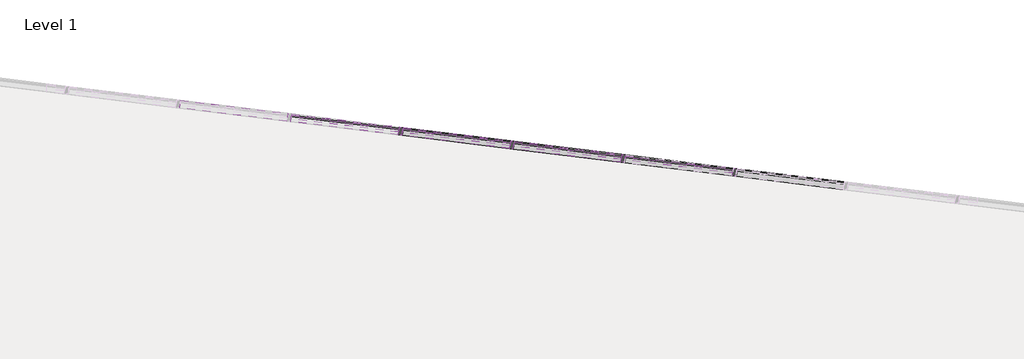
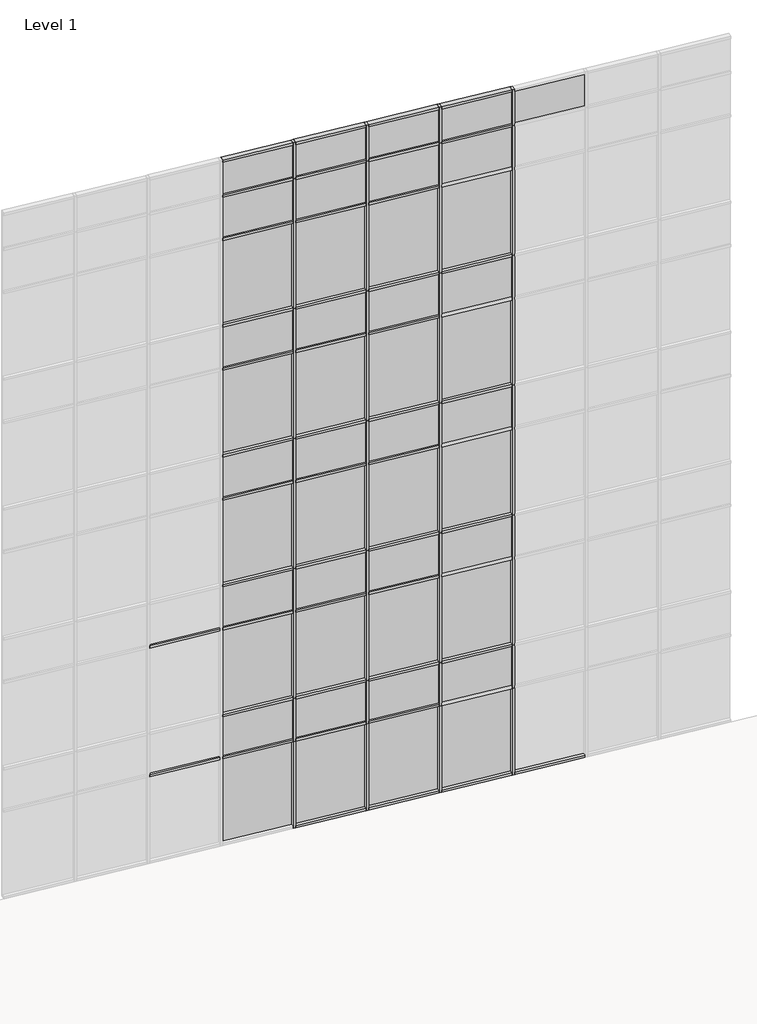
# One storey, part 17 of 23: 73 members, 45 plates.
"""IFC4 building model written with IfcOpenShell, lengths in millimetres."""

from ifc_helpers import new_model, si_unit, origin, place, context, project, spatial, transform, mapped, element, save
from components import member_2b49869a, member_f92b8aa2, member_810865a4, member_f0fea5a5, member_6d5c3e5e, member_9764dd38, system_panel_glazed_14c75400, system_panel_solid_5dfe6f83, system_panel_solid_e25e2004, system_panel_solid_b7551183

model = new_model("IFC4")

# Units and contexts
model_context = context("Model", 3, world=origin())
ifc_project = project(units=[si_unit("LENGTHUNIT", "METRE", prefix="MILLI")], contexts=[model_context])

# Site, building, storey
site = spatial("IfcSite", under=ifc_project)
building = spatial("IfcBuilding", under=site)
storey = spatial("IfcBuildingStorey", under=building, Name="Level 1", Elevation=0.0)

# Members
placement = place(None, origin())
member_shape = member_2b49869a(model_context)
element("IfcMember", 1, ObjectType="Rectangular Mullion : 2.5\" x 5\" rectangular", at=placement, inside=storey, context=model_context, shape_type="MappedRepresentation", body=[
    mapped(member_shape, transform((-12961.1731656, 13462.7931326, 2438.4), x_axis=(0.9925461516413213, -0.12186934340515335, 0.0), y_axis=(-0.12186934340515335, -0.9925461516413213, 0.0), z_axis=(0.0, 0.0, -1.0))),
])
element("IfcMember", 2, ObjectType="Rectangular Mullion : 2.5\" x 5\" rectangular", at=placement, inside=storey, context=model_context, shape_type="MappedRepresentation", body=[
    mapped(member_shape, transform((-14776.3415677, 13685.6677878, 2438.4), x_axis=(0.9925461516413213, -0.12186934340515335, 0.0), y_axis=(-0.12186934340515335, -0.9925461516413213, 0.0), z_axis=(0.0, 0.0, -1.0))),
])
element("IfcMember", 3, ObjectType="Rectangular Mullion : 2.5\" x 5\" rectangular", at=placement, inside=storey, context=model_context, shape_type="MappedRepresentation", body=[
    mapped(member_shape, transform((-16591.5099698, 13908.5424431, 2438.4), x_axis=(0.9925461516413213, -0.12186934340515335, 0.0), y_axis=(-0.12186934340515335, -0.9925461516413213, 0.0), z_axis=(0.0, 0.0, -1.0))),
])
element("IfcMember", 4, ObjectType="Rectangular Mullion : 2.5\" x 5\" rectangular", at=placement, inside=storey, context=model_context, shape_type="MappedRepresentation", body=[
    mapped(member_shape, transform((-18406.678372, 14131.4170983, 2438.4), x_axis=(0.9925461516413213, -0.12186934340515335, 0.0), y_axis=(-0.12186934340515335, -0.9925461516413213, 0.0), z_axis=(0.0, 0.0, -1.0))),
])
member_2_shape = member_f92b8aa2(model_context)
element("IfcMember", 5, ObjectType="Rectangular Mullion : 2.5\" x 5\" rectangular", at=placement, inside=storey, context=model_context, shape_type="MappedRepresentation", body=[
    mapped(member_2_shape, transform((-12961.1731656, 13462.7931326, 18288.0), x_axis=(0.9925461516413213, -0.12186934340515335, 0.0), y_axis=(-0.12186934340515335, -0.9925461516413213, 0.0), z_axis=(0.0, 0.0, -1.0))),
])
element("IfcMember", 6, ObjectType="Rectangular Mullion : 2.5\" x 5\" rectangular", at=placement, inside=storey, context=model_context, shape_type="MappedRepresentation", body=[
    mapped(member_2_shape, transform((-14776.3415677, 13685.6677878, 18288.0), x_axis=(0.9925461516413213, -0.12186934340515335, 0.0), y_axis=(-0.12186934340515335, -0.9925461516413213, 0.0), z_axis=(0.0, 0.0, -1.0))),
])
element("IfcMember", 7, ObjectType="Rectangular Mullion : 2.5\" x 5\" rectangular", at=placement, inside=storey, context=model_context, shape_type="MappedRepresentation", body=[
    mapped(member_2_shape, transform((-16591.5099698, 13908.5424431, 18288.0), x_axis=(0.9925461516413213, -0.12186934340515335, 0.0), y_axis=(-0.12186934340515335, -0.9925461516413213, 0.0), z_axis=(0.0, 0.0, -1.0))),
])
element("IfcMember", 8, ObjectType="Rectangular Mullion : 2.5\" x 5\" rectangular", at=placement, inside=storey, context=model_context, shape_type="MappedRepresentation", body=[
    mapped(member_2_shape, transform((-18406.678372, 14131.4170983, 18288.0), x_axis=(0.9925461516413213, -0.12186934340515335, 0.0), y_axis=(-0.12186934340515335, -0.9925461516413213, 0.0), z_axis=(0.0, 0.0, -1.0))),
])
member_3_shape = member_810865a4(model_context)
element("IfcMember", 9, ObjectType="Rectangular Mullion : 2.5\" x 5\" rectangular", at=placement, inside=storey, context=model_context, shape_type="MappedRepresentation", body=[
    mapped(member_3_shape, transform((-12961.1731656, 13462.7931326, 14630.4), x_axis=(0.9925461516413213, -0.12186934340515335, 0.0), y_axis=(-0.12186934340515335, -0.9925461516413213, 0.0), z_axis=(0.0, 0.0, -1.0))),
])
element("IfcMember", 10, ObjectType="Rectangular Mullion : 2.5\" x 5\" rectangular", at=placement, inside=storey, context=model_context, shape_type="MappedRepresentation", body=[
    mapped(member_3_shape, transform((-12961.1731656, 13462.7931326, 10972.8), x_axis=(0.9925461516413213, -0.12186934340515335, 0.0), y_axis=(-0.12186934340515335, -0.9925461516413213, 0.0), z_axis=(0.0, 0.0, -1.0))),
])
element("IfcMember", 11, ObjectType="Rectangular Mullion : 2.5\" x 5\" rectangular", at=placement, inside=storey, context=model_context, shape_type="MappedRepresentation", body=[
    mapped(member_3_shape, transform((-12961.1731656, 13462.7931326, 7315.2), x_axis=(0.9925461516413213, -0.12186934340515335, 0.0), y_axis=(-0.12186934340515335, -0.9925461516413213, 0.0), z_axis=(0.0, 0.0, -1.0))),
])
element("IfcMember", 12, ObjectType="Rectangular Mullion : 2.5\" x 5\" rectangular", at=placement, inside=storey, context=model_context, shape_type="MappedRepresentation", body=[
    mapped(member_3_shape, transform((-12961.1731656, 13462.7931326, 3657.6), x_axis=(0.9925461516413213, -0.12186934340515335, 0.0), y_axis=(-0.12186934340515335, -0.9925461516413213, 0.0), z_axis=(0.0, 0.0, -1.0))),
])
element("IfcMember", 13, ObjectType="Rectangular Mullion : 2.5\" x 5\" rectangular", at=placement, inside=storey, context=model_context, shape_type="MappedRepresentation", body=[
    mapped(member_3_shape, transform((-14776.3415677, 13685.6677878, 14630.4), x_axis=(0.9925461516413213, -0.12186934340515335, 0.0), y_axis=(-0.12186934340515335, -0.9925461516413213, 0.0), z_axis=(0.0, 0.0, -1.0))),
])
element("IfcMember", 14, ObjectType="Rectangular Mullion : 2.5\" x 5\" rectangular", at=placement, inside=storey, context=model_context, shape_type="MappedRepresentation", body=[
    mapped(member_3_shape, transform((-14776.3415677, 13685.6677878, 10972.8), x_axis=(0.9925461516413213, -0.12186934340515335, 0.0), y_axis=(-0.12186934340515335, -0.9925461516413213, 0.0), z_axis=(0.0, 0.0, -1.0))),
])
element("IfcMember", 15, ObjectType="Rectangular Mullion : 2.5\" x 5\" rectangular", at=placement, inside=storey, context=model_context, shape_type="MappedRepresentation", body=[
    mapped(member_3_shape, transform((-14776.3415677, 13685.6677878, 7315.2), x_axis=(0.9925461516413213, -0.12186934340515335, 0.0), y_axis=(-0.12186934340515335, -0.9925461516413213, 0.0), z_axis=(0.0, 0.0, -1.0))),
])
element("IfcMember", 16, ObjectType="Rectangular Mullion : 2.5\" x 5\" rectangular", at=placement, inside=storey, context=model_context, shape_type="MappedRepresentation", body=[
    mapped(member_3_shape, transform((-14776.3415677, 13685.6677878, 3657.6), x_axis=(0.9925461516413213, -0.12186934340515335, 0.0), y_axis=(-0.12186934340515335, -0.9925461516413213, 0.0), z_axis=(0.0, 0.0, -1.0))),
])
element("IfcMember", 17, ObjectType="Rectangular Mullion : 2.5\" x 5\" rectangular", at=placement, inside=storey, context=model_context, shape_type="MappedRepresentation", body=[
    mapped(member_3_shape, transform((-16591.5099698, 13908.5424431, 14630.4), x_axis=(0.9925461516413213, -0.12186934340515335, 0.0), y_axis=(-0.12186934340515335, -0.9925461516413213, 0.0), z_axis=(0.0, 0.0, -1.0))),
])
element("IfcMember", 18, ObjectType="Rectangular Mullion : 2.5\" x 5\" rectangular", at=placement, inside=storey, context=model_context, shape_type="MappedRepresentation", body=[
    mapped(member_3_shape, transform((-16591.5099698, 13908.5424431, 10972.8), x_axis=(0.9925461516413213, -0.12186934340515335, 0.0), y_axis=(-0.12186934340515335, -0.9925461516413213, 0.0), z_axis=(0.0, 0.0, -1.0))),
])
element("IfcMember", 19, ObjectType="Rectangular Mullion : 2.5\" x 5\" rectangular", at=placement, inside=storey, context=model_context, shape_type="MappedRepresentation", body=[
    mapped(member_3_shape, transform((-16591.5099698, 13908.5424431, 7315.2), x_axis=(0.9925461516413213, -0.12186934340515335, 0.0), y_axis=(-0.12186934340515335, -0.9925461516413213, 0.0), z_axis=(0.0, 0.0, -1.0))),
])
element("IfcMember", 20, ObjectType="Rectangular Mullion : 2.5\" x 5\" rectangular", at=placement, inside=storey, context=model_context, shape_type="MappedRepresentation", body=[
    mapped(member_3_shape, transform((-16591.5099698, 13908.5424431, 3657.6), x_axis=(0.9925461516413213, -0.12186934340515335, 0.0), y_axis=(-0.12186934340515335, -0.9925461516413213, 0.0), z_axis=(0.0, 0.0, -1.0))),
])
element("IfcMember", 21, ObjectType="Rectangular Mullion : 2.5\" x 5\" rectangular", at=placement, inside=storey, context=model_context, shape_type="MappedRepresentation", body=[
    mapped(member_3_shape, transform((-18406.678372, 14131.4170983, 14630.4), x_axis=(0.9925461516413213, -0.12186934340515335, 0.0), y_axis=(-0.12186934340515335, -0.9925461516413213, 0.0), z_axis=(0.0, 0.0, -1.0))),
])
element("IfcMember", 22, ObjectType="Rectangular Mullion : 2.5\" x 5\" rectangular", at=placement, inside=storey, context=model_context, shape_type="MappedRepresentation", body=[
    mapped(member_3_shape, transform((-18406.678372, 14131.4170983, 10972.8), x_axis=(0.9925461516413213, -0.12186934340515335, 0.0), y_axis=(-0.12186934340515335, -0.9925461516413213, 0.0), z_axis=(0.0, 0.0, -1.0))),
])
element("IfcMember", 23, ObjectType="Rectangular Mullion : 2.5\" x 5\" rectangular", at=placement, inside=storey, context=model_context, shape_type="MappedRepresentation", body=[
    mapped(member_3_shape, transform((-18406.678372, 14131.4170983, 7315.2), x_axis=(0.9925461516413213, -0.12186934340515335, 0.0), y_axis=(-0.12186934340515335, -0.9925461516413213, 0.0), z_axis=(0.0, 0.0, -1.0))),
])
element("IfcMember", 24, ObjectType="Rectangular Mullion : 2.5\" x 5\" rectangular", at=placement, inside=storey, context=model_context, shape_type="MappedRepresentation", body=[
    mapped(member_3_shape, transform((-18406.678372, 14131.4170983, 3657.6), x_axis=(0.9925461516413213, -0.12186934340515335, 0.0), y_axis=(-0.12186934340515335, -0.9925461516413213, 0.0), z_axis=(0.0, 0.0, -1.0))),
])
member_4_shape = member_f0fea5a5(model_context)
element("IfcMember", 25, ObjectType="Rectangular Mullion : 2.5\" x 5\" rectangular", at=placement, inside=storey, context=model_context, shape_type="MappedRepresentation", body=[
    mapped(member_4_shape, transform((-18406.678372, 14131.4170983, 0.0), x_axis=(0.9925461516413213, -0.12186934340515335, 0.0), y_axis=(-0.12186934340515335, -0.9925461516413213, 0.0), z_axis=(0.0, 0.0, -1.0))),
])
element("IfcMember", 26, ObjectType="Rectangular Mullion : 2.5\" x 5\" rectangular", at=placement, inside=storey, context=model_context, shape_type="MappedRepresentation", body=[
    mapped(member_4_shape, transform((-16591.5099698, 13908.5424431, 0.0), x_axis=(0.9925461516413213, -0.12186934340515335, 0.0), y_axis=(-0.12186934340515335, -0.9925461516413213, 0.0), z_axis=(0.0, 0.0, -1.0))),
])
element("IfcMember", 27, ObjectType="Rectangular Mullion : 2.5\" x 5\" rectangular", at=placement, inside=storey, context=model_context, shape_type="MappedRepresentation", body=[
    mapped(member_4_shape, transform((-14776.3415677, 13685.6677878, 0.0), x_axis=(0.9925461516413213, -0.12186934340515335, 0.0), y_axis=(-0.12186934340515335, -0.9925461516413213, 0.0), z_axis=(0.0, 0.0, -1.0))),
])
element("IfcMember", 28, ObjectType="Rectangular Mullion : 2.5\" x 5\" rectangular", at=placement, inside=storey, context=model_context, shape_type="MappedRepresentation", body=[
    mapped(member_4_shape, transform((-12961.1731656, 13462.7931326, 0.0), x_axis=(0.9925461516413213, -0.12186934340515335, 0.0), y_axis=(-0.12186934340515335, -0.9925461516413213, 0.0), z_axis=(0.0, 0.0, -1.0))),
])
member_5_shape = member_6d5c3e5e(model_context)
element("IfcMember", 29, ObjectType="Rectangular Mullion : 2.5\" x 5\" rectangular", at=placement, inside=storey, context=model_context, shape_type="MappedRepresentation", body=[
    mapped(member_5_shape, transform((-12992.6865059, 13466.6624843, 19304.0), x_axis=(0.0, 0.0, 1.0), y_axis=(-0.12186934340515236, -0.9925461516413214, 0.0), z_axis=(0.9925461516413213, -0.12186934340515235, 0.0))),
])
element("IfcMember", 30, ObjectType="Rectangular Mullion : 2.5\" x 5\" rectangular", at=placement, inside=storey, context=model_context, shape_type="MappedRepresentation", body=[
    mapped(member_5_shape, transform((-14807.854908, 13689.5371395, 19304.0), x_axis=(0.0, 0.0, 1.0), y_axis=(-0.12186934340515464, -0.9925461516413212, 0.0), z_axis=(0.9925461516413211, -0.12186934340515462, 0.0))),
])
element("IfcMember", 31, ObjectType="Rectangular Mullion : 2.5\" x 5\" rectangular", at=placement, inside=storey, context=model_context, shape_type="MappedRepresentation", body=[
    mapped(member_5_shape, transform((-16623.0233102, 13912.4117947, 19304.0), x_axis=(0.0, 0.0, 1.0), y_axis=(-0.12186934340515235, -0.9925461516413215, 0.0), z_axis=(0.9925461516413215, -0.12186934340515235, 0.0))),
])
element("IfcMember", 32, ObjectType="Rectangular Mullion : 2.5\" x 5\" rectangular", at=placement, inside=storey, context=model_context, shape_type="MappedRepresentation", body=[
    mapped(member_5_shape, transform((-18438.1917123, 14135.2864499, 19304.0), x_axis=(0.0, 0.0, 1.0), y_axis=(-0.12186934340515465, -0.9925461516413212, 0.0), z_axis=(0.9925461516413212, -0.12186934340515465, 0.0))),
])
member_6_shape = member_9764dd38(model_context)
element("IfcMember", 33, ObjectType="Rectangular Mullion : 2.5\" x 5\" rectangular", at=placement, inside=storey, context=model_context, shape_type="MappedRepresentation", body=[
    mapped(member_6_shape, transform((-14807.854908, 13689.5371395, 17068.8), x_axis=(0.0, 0.0, 1.0), y_axis=(-0.12186934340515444, -0.9925461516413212, 0.0), z_axis=(0.9925461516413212, -0.12186934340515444, 0.0))),
])
element("IfcMember", 34, ObjectType="Rectangular Mullion : 2.5\" x 5\" rectangular", at=placement, inside=storey, context=model_context, shape_type="MappedRepresentation", body=[
    mapped(member_6_shape, transform((-16623.0233102, 13912.4117947, 17068.8), x_axis=(0.0, 0.0, 1.0), y_axis=(-0.12186934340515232, -0.9925461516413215, 0.0), z_axis=(0.9925461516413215, -0.12186934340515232, 0.0))),
])
element("IfcMember", 35, ObjectType="Rectangular Mullion : 2.5\" x 5\" rectangular", at=placement, inside=storey, context=model_context, shape_type="MappedRepresentation", body=[
    mapped(member_6_shape, transform((-18438.1917123, 14135.2864499, 17068.8), x_axis=(0.0, 0.0, 1.0), y_axis=(-0.12186934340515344, -0.9925461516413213, 0.0), z_axis=(0.9925461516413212, -0.12186934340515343, 0.0))),
])
element("IfcMember", 36, ObjectType="Rectangular Mullion : 2.5\" x 5\" rectangular", at=placement, inside=storey, context=model_context, shape_type="MappedRepresentation", body=[
    mapped(member_6_shape, transform((-14807.854908, 13689.5371395, 13411.2), x_axis=(0.0, 0.0, 1.0), y_axis=(-0.12186934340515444, -0.9925461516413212, 0.0), z_axis=(0.9925461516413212, -0.12186934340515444, 0.0))),
])
element("IfcMember", 37, ObjectType="Rectangular Mullion : 2.5\" x 5\" rectangular", at=placement, inside=storey, context=model_context, shape_type="MappedRepresentation", body=[
    mapped(member_6_shape, transform((-16623.0233102, 13912.4117947, 13411.2), x_axis=(0.0, 0.0, 1.0), y_axis=(-0.12186934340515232, -0.9925461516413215, 0.0), z_axis=(0.9925461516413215, -0.12186934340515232, 0.0))),
])
element("IfcMember", 38, ObjectType="Rectangular Mullion : 2.5\" x 5\" rectangular", at=placement, inside=storey, context=model_context, shape_type="MappedRepresentation", body=[
    mapped(member_6_shape, transform((-18438.1917123, 14135.2864499, 13411.2), x_axis=(0.0, 0.0, 1.0), y_axis=(-0.12186934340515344, -0.9925461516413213, 0.0), z_axis=(0.9925461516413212, -0.12186934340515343, 0.0))),
])
element("IfcMember", 39, ObjectType="Rectangular Mullion : 2.5\" x 5\" rectangular", at=placement, inside=storey, context=model_context, shape_type="MappedRepresentation", body=[
    mapped(member_6_shape, transform((-14807.854908, 13689.5371395, 9753.6), x_axis=(0.0, 0.0, 1.0), y_axis=(-0.12186934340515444, -0.9925461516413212, 0.0), z_axis=(0.9925461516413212, -0.12186934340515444, 0.0))),
])
element("IfcMember", 40, ObjectType="Rectangular Mullion : 2.5\" x 5\" rectangular", at=placement, inside=storey, context=model_context, shape_type="MappedRepresentation", body=[
    mapped(member_6_shape, transform((-16623.0233102, 13912.4117947, 9753.6), x_axis=(0.0, 0.0, 1.0), y_axis=(-0.12186934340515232, -0.9925461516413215, 0.0), z_axis=(0.9925461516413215, -0.12186934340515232, 0.0))),
])
element("IfcMember", 41, ObjectType="Rectangular Mullion : 2.5\" x 5\" rectangular", at=placement, inside=storey, context=model_context, shape_type="MappedRepresentation", body=[
    mapped(member_6_shape, transform((-18438.1917123, 14135.2864499, 9753.6), x_axis=(0.0, 0.0, 1.0), y_axis=(-0.12186934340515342, -0.9925461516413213, 0.0), z_axis=(0.9925461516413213, -0.12186934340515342, 0.0))),
])
element("IfcMember", 42, ObjectType="Rectangular Mullion : 2.5\" x 5\" rectangular", at=placement, inside=storey, context=model_context, shape_type="MappedRepresentation", body=[
    mapped(member_6_shape, transform((-14807.854908, 13689.5371395, 6096.0), x_axis=(0.0, 0.0, 1.0), y_axis=(-0.12186934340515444, -0.9925461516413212, 0.0), z_axis=(0.9925461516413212, -0.12186934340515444, 0.0))),
])
element("IfcMember", 43, ObjectType="Rectangular Mullion : 2.5\" x 5\" rectangular", at=placement, inside=storey, context=model_context, shape_type="MappedRepresentation", body=[
    mapped(member_6_shape, transform((-16623.0233102, 13912.4117947, 6096.0), x_axis=(0.0, 0.0, 1.0), y_axis=(-0.12186934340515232, -0.9925461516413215, 0.0), z_axis=(0.9925461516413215, -0.12186934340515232, 0.0))),
])
element("IfcMember", 44, ObjectType="Rectangular Mullion : 2.5\" x 5\" rectangular", at=placement, inside=storey, context=model_context, shape_type="MappedRepresentation", body=[
    mapped(member_6_shape, transform((-18438.1917123, 14135.2864499, 6096.0), x_axis=(0.0, 0.0, 1.0), y_axis=(-0.12186934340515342, -0.9925461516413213, 0.0), z_axis=(0.9925461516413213, -0.12186934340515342, 0.0))),
])
element("IfcMember", 45, ObjectType="Rectangular Mullion : 2.5\" x 5\" rectangular", at=placement, inside=storey, context=model_context, shape_type="MappedRepresentation", body=[
    mapped(member_6_shape, transform((-20253.3601144, 14358.1611052, 6096.0), x_axis=(0.0, 0.0, 1.0), y_axis=(-0.12186934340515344, -0.9925461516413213, 0.0), z_axis=(0.9925461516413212, -0.12186934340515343, 0.0))),
])
element("IfcMember", 46, ObjectType="Rectangular Mullion : 2.5\" x 5\" rectangular", at=placement, inside=storey, context=model_context, shape_type="MappedRepresentation", body=[
    mapped(member_6_shape, transform((-14807.854908, 13689.5371395, 2470.15), x_axis=(0.0, 0.0, 1.0), y_axis=(-0.12186934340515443, -0.9925461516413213, 0.0), z_axis=(0.9925461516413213, -0.12186934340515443, 0.0))),
])
element("IfcMember", 47, ObjectType="Rectangular Mullion : 2.5\" x 5\" rectangular", at=placement, inside=storey, context=model_context, shape_type="MappedRepresentation", body=[
    mapped(member_6_shape, transform((-16623.0233102, 13912.4117947, 2470.15), x_axis=(0.0, 0.0, 1.0), y_axis=(-0.12186934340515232, -0.9925461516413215, 0.0), z_axis=(0.9925461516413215, -0.12186934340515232, 0.0))),
])
element("IfcMember", 48, ObjectType="Rectangular Mullion : 2.5\" x 5\" rectangular", at=placement, inside=storey, context=model_context, shape_type="MappedRepresentation", body=[
    mapped(member_6_shape, transform((-18438.1917123, 14135.2864499, 2470.15), x_axis=(0.0, 0.0, 1.0), y_axis=(-0.1218693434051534, -0.9925461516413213, 0.0), z_axis=(0.9925461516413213, -0.1218693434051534, 0.0))),
])
element("IfcMember", 49, ObjectType="Rectangular Mullion : 2.5\" x 5\" rectangular", at=placement, inside=storey, context=model_context, shape_type="MappedRepresentation", body=[
    mapped(member_6_shape, transform((-20253.3601144, 14358.1611052, 2470.15), x_axis=(0.0, 0.0, 1.0), y_axis=(-0.12186934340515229, -0.9925461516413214, 0.0), z_axis=(0.9925461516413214, -0.12186934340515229, 0.0))),
])
element("IfcMember", 50, ObjectType="Rectangular Mullion : 2.5\" x 5\" rectangular", at=placement, inside=storey, context=model_context, shape_type="MappedRepresentation", body=[
    mapped(member_5_shape, transform((-12929.6598253, 13458.923781, 0.0), x_axis=(0.0, 0.0, -1.0), y_axis=(-0.12186934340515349, -0.9925461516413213, 0.0), z_axis=(-0.9925461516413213, 0.12186934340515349, 0.0))),
])
element("IfcMember", 51, ObjectType="Rectangular Mullion : 2.5\" x 5\" rectangular", at=placement, inside=storey, context=model_context, shape_type="MappedRepresentation", body=[
    mapped(member_5_shape, transform((-14744.8282274, 13681.7984362, 0.0), x_axis=(0.0, 0.0, -1.0), y_axis=(-0.12186934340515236, -0.9925461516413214, 0.0), z_axis=(-0.9925461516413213, 0.12186934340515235, 0.0))),
])
element("IfcMember", 52, ObjectType="Rectangular Mullion : 2.5\" x 5\" rectangular", at=placement, inside=storey, context=model_context, shape_type="MappedRepresentation", body=[
    mapped(member_5_shape, transform((-16559.9966295, 13904.6730914, 0.0), x_axis=(0.0, 0.0, -1.0), y_axis=(-0.12186934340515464, -0.9925461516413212, 0.0), z_axis=(-0.9925461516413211, 0.12186934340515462, 0.0))),
])
element("IfcMember", 53, ObjectType="Rectangular Mullion : 2.5\" x 5\" rectangular", at=placement, inside=storey, context=model_context, shape_type="MappedRepresentation", body=[
    mapped(member_5_shape, transform((-18375.1650316, 14127.5477466, 0.0), x_axis=(0.0, 0.0, -1.0), y_axis=(-0.12186934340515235, -0.9925461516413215, 0.0), z_axis=(-0.9925461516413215, 0.12186934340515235, 0.0))),
])
element("IfcMember", 54, ObjectType="Rectangular Mullion : 2.5\" x 5\" rectangular", at=placement, inside=storey, context=model_context, shape_type="MappedRepresentation", body=[
    mapped(member_6_shape, transform((-12992.6865059, 13466.6624843, 3657.6), x_axis=(0.0, 0.0, 1.0), y_axis=(-0.12186934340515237, -0.9925461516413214, 0.0), z_axis=(0.9925461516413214, -0.12186934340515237, 0.0))),
])
element("IfcMember", 55, ObjectType="Rectangular Mullion : 2.5\" x 5\" rectangular", at=placement, inside=storey, context=model_context, shape_type="MappedRepresentation", body=[
    mapped(member_6_shape, transform((-14807.854908, 13689.5371395, 3657.6), x_axis=(0.0, 0.0, 1.0), y_axis=(-0.12186934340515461, -0.9925461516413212, 0.0), z_axis=(0.9925461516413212, -0.12186934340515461, 0.0))),
])
element("IfcMember", 56, ObjectType="Rectangular Mullion : 2.5\" x 5\" rectangular", at=placement, inside=storey, context=model_context, shape_type="MappedRepresentation", body=[
    mapped(member_6_shape, transform((-16623.0233102, 13912.4117947, 3657.6), x_axis=(0.0, 0.0, 1.0), y_axis=(-0.12186934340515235, -0.9925461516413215, 0.0), z_axis=(0.9925461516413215, -0.12186934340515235, 0.0))),
])
element("IfcMember", 57, ObjectType="Rectangular Mullion : 2.5\" x 5\" rectangular", at=placement, inside=storey, context=model_context, shape_type="MappedRepresentation", body=[
    mapped(member_6_shape, transform((-18438.1917123, 14135.2864499, 3657.6), x_axis=(0.0, 0.0, 1.0), y_axis=(-0.12186934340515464, -0.9925461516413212, 0.0), z_axis=(0.9925461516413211, -0.12186934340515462, 0.0))),
])
element("IfcMember", 58, ObjectType="Rectangular Mullion : 2.5\" x 5\" rectangular", at=placement, inside=storey, context=model_context, shape_type="MappedRepresentation", body=[
    mapped(member_6_shape, transform((-12992.6865059, 13466.6624843, 10972.8), x_axis=(0.0, 0.0, 1.0), y_axis=(-0.12186934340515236, -0.9925461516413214, 0.0), z_axis=(0.9925461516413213, -0.12186934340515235, 0.0))),
])
element("IfcMember", 59, ObjectType="Rectangular Mullion : 2.5\" x 5\" rectangular", at=placement, inside=storey, context=model_context, shape_type="MappedRepresentation", body=[
    mapped(member_6_shape, transform((-14807.854908, 13689.5371395, 10972.8), x_axis=(0.0, 0.0, 1.0), y_axis=(-0.12186934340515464, -0.9925461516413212, 0.0), z_axis=(0.9925461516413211, -0.12186934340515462, 0.0))),
])
element("IfcMember", 60, ObjectType="Rectangular Mullion : 2.5\" x 5\" rectangular", at=placement, inside=storey, context=model_context, shape_type="MappedRepresentation", body=[
    mapped(member_6_shape, transform((-16623.0233102, 13912.4117947, 10972.8), x_axis=(0.0, 0.0, 1.0), y_axis=(-0.12186934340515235, -0.9925461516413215, 0.0), z_axis=(0.9925461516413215, -0.12186934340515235, 0.0))),
])
element("IfcMember", 61, ObjectType="Rectangular Mullion : 2.5\" x 5\" rectangular", at=placement, inside=storey, context=model_context, shape_type="MappedRepresentation", body=[
    mapped(member_6_shape, transform((-18438.1917123, 14135.2864499, 10972.8), x_axis=(0.0, 0.0, 1.0), y_axis=(-0.12186934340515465, -0.9925461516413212, 0.0), z_axis=(0.9925461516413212, -0.12186934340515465, 0.0))),
])
element("IfcMember", 62, ObjectType="Rectangular Mullion : 2.5\" x 5\" rectangular", at=placement, inside=storey, context=model_context, shape_type="MappedRepresentation", body=[
    mapped(member_6_shape, transform((-12992.6865059, 13466.6624843, 14630.4), x_axis=(0.0, 0.0, 1.0), y_axis=(-0.12186934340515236, -0.9925461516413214, 0.0), z_axis=(0.9925461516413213, -0.12186934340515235, 0.0))),
])
element("IfcMember", 63, ObjectType="Rectangular Mullion : 2.5\" x 5\" rectangular", at=placement, inside=storey, context=model_context, shape_type="MappedRepresentation", body=[
    mapped(member_6_shape, transform((-14807.854908, 13689.5371395, 14630.4), x_axis=(0.0, 0.0, 1.0), y_axis=(-0.12186934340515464, -0.9925461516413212, 0.0), z_axis=(0.9925461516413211, -0.12186934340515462, 0.0))),
])
element("IfcMember", 64, ObjectType="Rectangular Mullion : 2.5\" x 5\" rectangular", at=placement, inside=storey, context=model_context, shape_type="MappedRepresentation", body=[
    mapped(member_6_shape, transform((-16623.0233102, 13912.4117947, 14630.4), x_axis=(0.0, 0.0, 1.0), y_axis=(-0.12186934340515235, -0.9925461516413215, 0.0), z_axis=(0.9925461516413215, -0.12186934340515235, 0.0))),
])
element("IfcMember", 65, ObjectType="Rectangular Mullion : 2.5\" x 5\" rectangular", at=placement, inside=storey, context=model_context, shape_type="MappedRepresentation", body=[
    mapped(member_6_shape, transform((-18438.1917123, 14135.2864499, 14630.4), x_axis=(0.0, 0.0, 1.0), y_axis=(-0.12186934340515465, -0.9925461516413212, 0.0), z_axis=(0.9925461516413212, -0.12186934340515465, 0.0))),
])
element("IfcMember", 66, ObjectType="Rectangular Mullion : 2.5\" x 5\" rectangular", at=placement, inside=storey, context=model_context, shape_type="MappedRepresentation", body=[
    mapped(member_6_shape, transform((-12992.6865059, 13466.6624843, 7315.2), x_axis=(0.0, 0.0, 1.0), y_axis=(-0.12186934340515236, -0.9925461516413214, 0.0), z_axis=(0.9925461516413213, -0.12186934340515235, 0.0))),
])
element("IfcMember", 67, ObjectType="Rectangular Mullion : 2.5\" x 5\" rectangular", at=placement, inside=storey, context=model_context, shape_type="MappedRepresentation", body=[
    mapped(member_6_shape, transform((-14807.854908, 13689.5371395, 7315.2), x_axis=(0.0, 0.0, 1.0), y_axis=(-0.12186934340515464, -0.9925461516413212, 0.0), z_axis=(0.9925461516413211, -0.12186934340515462, 0.0))),
])
element("IfcMember", 68, ObjectType="Rectangular Mullion : 2.5\" x 5\" rectangular", at=placement, inside=storey, context=model_context, shape_type="MappedRepresentation", body=[
    mapped(member_6_shape, transform((-16623.0233102, 13912.4117947, 7315.2), x_axis=(0.0, 0.0, 1.0), y_axis=(-0.12186934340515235, -0.9925461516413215, 0.0), z_axis=(0.9925461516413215, -0.12186934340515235, 0.0))),
])
element("IfcMember", 69, ObjectType="Rectangular Mullion : 2.5\" x 5\" rectangular", at=placement, inside=storey, context=model_context, shape_type="MappedRepresentation", body=[
    mapped(member_6_shape, transform((-18438.1917123, 14135.2864499, 7315.2), x_axis=(0.0, 0.0, 1.0), y_axis=(-0.12186934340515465, -0.9925461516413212, 0.0), z_axis=(0.9925461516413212, -0.12186934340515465, 0.0))),
])
element("IfcMember", 70, ObjectType="Rectangular Mullion : 2.5\" x 5\" rectangular", at=placement, inside=storey, context=model_context, shape_type="MappedRepresentation", body=[
    mapped(member_6_shape, transform((-12992.6865059, 13466.6624843, 18288.0), x_axis=(0.0, 0.0, 1.0), y_axis=(-0.12186934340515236, -0.9925461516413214, 0.0), z_axis=(0.9925461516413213, -0.12186934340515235, 0.0))),
])
element("IfcMember", 71, ObjectType="Rectangular Mullion : 2.5\" x 5\" rectangular", at=placement, inside=storey, context=model_context, shape_type="MappedRepresentation", body=[
    mapped(member_6_shape, transform((-14807.854908, 13689.5371395, 18288.0), x_axis=(0.0, 0.0, 1.0), y_axis=(-0.12186934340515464, -0.9925461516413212, 0.0), z_axis=(0.9925461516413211, -0.12186934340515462, 0.0))),
])
element("IfcMember", 72, ObjectType="Rectangular Mullion : 2.5\" x 5\" rectangular", at=placement, inside=storey, context=model_context, shape_type="MappedRepresentation", body=[
    mapped(member_6_shape, transform((-16623.0233102, 13912.4117947, 18288.0), x_axis=(0.0, 0.0, 1.0), y_axis=(-0.12186934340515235, -0.9925461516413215, 0.0), z_axis=(0.9925461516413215, -0.12186934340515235, 0.0))),
])
element("IfcMember", 73, ObjectType="Rectangular Mullion : 2.5\" x 5\" rectangular", at=placement, inside=storey, context=model_context, shape_type="MappedRepresentation", body=[
    mapped(member_6_shape, transform((-18438.1917123, 14135.2864499, 18288.0), x_axis=(0.0, 0.0, 1.0), y_axis=(-0.12186934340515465, -0.9925461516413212, 0.0), z_axis=(0.9925461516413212, -0.12186934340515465, 0.0))),
])

# Plates
system_panel_glazed_shape = system_panel_glazed_14c75400(model_context)
element("IfcPlate", 74, ObjectType="System Panel : Glazed", at=placement, inside=storey, context=model_context, shape_type="MappedRepresentation", body=[
    mapped(system_panel_glazed_shape, transform((-13868.7573667, 13574.2304602, 14662.15), x_axis=(0.9925461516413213, -0.12186934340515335, 0.0), y_axis=(0.12186934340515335, 0.9925461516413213, 0.0), z_axis=(0.0, 0.0, 1.0))),
])
element("IfcPlate", 75, ObjectType="System Panel : Glazed", at=placement, inside=storey, context=model_context, shape_type="MappedRepresentation", body=[
    mapped(system_panel_glazed_shape, transform((-15683.9257688, 13797.1051154, 14662.15), x_axis=(0.9925461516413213, -0.12186934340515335, 0.0), y_axis=(0.12186934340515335, 0.9925461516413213, 0.0), z_axis=(0.0, 0.0, 1.0))),
])
element("IfcPlate", 76, ObjectType="System Panel : Glazed", at=placement, inside=storey, context=model_context, shape_type="MappedRepresentation", body=[
    mapped(system_panel_glazed_shape, transform((-17499.0941709, 14019.9797707, 14662.15), x_axis=(0.9925461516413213, -0.12186934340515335, 0.0), y_axis=(0.12186934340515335, 0.9925461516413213, 0.0), z_axis=(0.0, 0.0, 1.0))),
])
element("IfcPlate", 77, ObjectType="System Panel : Glazed", at=placement, inside=storey, context=model_context, shape_type="MappedRepresentation", body=[
    mapped(system_panel_glazed_shape, transform((-19314.262573, 14242.8544259, 14662.15), x_axis=(0.9925461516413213, -0.12186934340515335, 0.0), y_axis=(0.12186934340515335, 0.9925461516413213, 0.0), z_axis=(0.0, 0.0, 1.0))),
])
element("IfcPlate", 78, ObjectType="System Panel : Glazed", at=placement, inside=storey, context=model_context, shape_type="MappedRepresentation", body=[
    mapped(system_panel_glazed_shape, transform((-13868.7573667, 13574.2304602, 11004.55), x_axis=(0.9925461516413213, -0.12186934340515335, 0.0), y_axis=(0.12186934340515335, 0.9925461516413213, 0.0), z_axis=(0.0, 0.0, 1.0))),
])
element("IfcPlate", 79, ObjectType="System Panel : Glazed", at=placement, inside=storey, context=model_context, shape_type="MappedRepresentation", body=[
    mapped(system_panel_glazed_shape, transform((-15683.9257688, 13797.1051154, 11004.55), x_axis=(0.9925461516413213, -0.12186934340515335, 0.0), y_axis=(0.12186934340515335, 0.9925461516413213, 0.0), z_axis=(0.0, 0.0, 1.0))),
])
element("IfcPlate", 80, ObjectType="System Panel : Glazed", at=placement, inside=storey, context=model_context, shape_type="MappedRepresentation", body=[
    mapped(system_panel_glazed_shape, transform((-17499.0941709, 14019.9797707, 11004.55), x_axis=(0.9925461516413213, -0.12186934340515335, 0.0), y_axis=(0.12186934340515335, 0.9925461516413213, 0.0), z_axis=(0.0, 0.0, 1.0))),
])
element("IfcPlate", 81, ObjectType="System Panel : Glazed", at=placement, inside=storey, context=model_context, shape_type="MappedRepresentation", body=[
    mapped(system_panel_glazed_shape, transform((-19314.262573, 14242.8544259, 11004.55), x_axis=(0.9925461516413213, -0.12186934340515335, 0.0), y_axis=(0.12186934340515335, 0.9925461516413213, 0.0), z_axis=(0.0, 0.0, 1.0))),
])
element("IfcPlate", 82, ObjectType="System Panel : Glazed", at=placement, inside=storey, context=model_context, shape_type="MappedRepresentation", body=[
    mapped(system_panel_glazed_shape, transform((-13868.7573667, 13574.2304602, 7346.95), x_axis=(0.9925461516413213, -0.12186934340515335, 0.0), y_axis=(0.12186934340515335, 0.9925461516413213, 0.0), z_axis=(0.0, 0.0, 1.0))),
])
element("IfcPlate", 83, ObjectType="System Panel : Glazed", at=placement, inside=storey, context=model_context, shape_type="MappedRepresentation", body=[
    mapped(system_panel_glazed_shape, transform((-15683.9257688, 13797.1051154, 7346.95), x_axis=(0.9925461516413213, -0.12186934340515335, 0.0), y_axis=(0.12186934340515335, 0.9925461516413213, 0.0), z_axis=(0.0, 0.0, 1.0))),
])
element("IfcPlate", 84, ObjectType="System Panel : Glazed", at=placement, inside=storey, context=model_context, shape_type="MappedRepresentation", body=[
    mapped(system_panel_glazed_shape, transform((-17499.0941709, 14019.9797707, 7346.95), x_axis=(0.9925461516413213, -0.12186934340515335, 0.0), y_axis=(0.12186934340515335, 0.9925461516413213, 0.0), z_axis=(0.0, 0.0, 1.0))),
])
element("IfcPlate", 85, ObjectType="System Panel : Glazed", at=placement, inside=storey, context=model_context, shape_type="MappedRepresentation", body=[
    mapped(system_panel_glazed_shape, transform((-19314.262573, 14242.8544259, 7346.95), x_axis=(0.9925461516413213, -0.12186934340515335, 0.0), y_axis=(0.12186934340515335, 0.9925461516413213, 0.0), z_axis=(0.0, 0.0, 1.0))),
])
element("IfcPlate", 86, ObjectType="System Panel : Glazed", at=placement, inside=storey, context=model_context, shape_type="MappedRepresentation", body=[
    mapped(system_panel_glazed_shape, transform((-13868.7573667, 13574.2304602, 3689.35), x_axis=(0.9925461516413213, -0.12186934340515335, 0.0), y_axis=(0.12186934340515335, 0.9925461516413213, 0.0), z_axis=(0.0, 0.0, 1.0))),
])
element("IfcPlate", 87, ObjectType="System Panel : Glazed", at=placement, inside=storey, context=model_context, shape_type="MappedRepresentation", body=[
    mapped(system_panel_glazed_shape, transform((-15683.9257688, 13797.1051154, 3689.35), x_axis=(0.9925461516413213, -0.12186934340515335, 0.0), y_axis=(0.12186934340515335, 0.9925461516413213, 0.0), z_axis=(0.0, 0.0, 1.0))),
])
element("IfcPlate", 88, ObjectType="System Panel : Glazed", at=placement, inside=storey, context=model_context, shape_type="MappedRepresentation", body=[
    mapped(system_panel_glazed_shape, transform((-17499.0941709, 14019.9797707, 3689.35), x_axis=(0.9925461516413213, -0.12186934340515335, 0.0), y_axis=(0.12186934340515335, 0.9925461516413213, 0.0), z_axis=(0.0, 0.0, 1.0))),
])
element("IfcPlate", 89, ObjectType="System Panel : Glazed", at=placement, inside=storey, context=model_context, shape_type="MappedRepresentation", body=[
    mapped(system_panel_glazed_shape, transform((-19314.262573, 14242.8544259, 3689.35), x_axis=(0.9925461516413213, -0.12186934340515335, 0.0), y_axis=(0.12186934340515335, 0.9925461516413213, 0.0), z_axis=(0.0, 0.0, 1.0))),
])
element("IfcPlate", 90, ObjectType="System Panel : Glazed", at=placement, inside=storey, context=model_context, shape_type="MappedRepresentation", body=[
    mapped(system_panel_glazed_shape, transform((-13868.7573667, 13574.2304602, 63.5), x_axis=(0.9925461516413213, -0.12186934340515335, 0.0), y_axis=(0.12186934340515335, 0.9925461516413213, 0.0), z_axis=(0.0, 0.0, 1.0))),
])
element("IfcPlate", 91, ObjectType="System Panel : Glazed", at=placement, inside=storey, context=model_context, shape_type="MappedRepresentation", body=[
    mapped(system_panel_glazed_shape, transform((-15683.9257688, 13797.1051154, 63.5), x_axis=(0.9925461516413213, -0.12186934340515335, 0.0), y_axis=(0.12186934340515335, 0.9925461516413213, 0.0), z_axis=(0.0, 0.0, 1.0))),
])
element("IfcPlate", 92, ObjectType="System Panel : Glazed", at=placement, inside=storey, context=model_context, shape_type="MappedRepresentation", body=[
    mapped(system_panel_glazed_shape, transform((-17499.0941709, 14019.9797707, 63.5), x_axis=(0.9925461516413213, -0.12186934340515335, 0.0), y_axis=(0.12186934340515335, 0.9925461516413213, 0.0), z_axis=(0.0, 0.0, 1.0))),
])
element("IfcPlate", 93, ObjectType="System Panel : Glazed", at=placement, inside=storey, context=model_context, shape_type="MappedRepresentation", body=[
    mapped(system_panel_glazed_shape, transform((-19314.262573, 14242.8544259, 63.5), x_axis=(0.9925461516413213, -0.12186934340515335, 0.0), y_axis=(0.12186934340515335, 0.9925461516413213, 0.0), z_axis=(0.0, 0.0, 1.0))),
])
system_panel_solid_shape = system_panel_solid_5dfe6f83(model_context)
element("IfcPlate", 94, ObjectType="System Panel : Solid", at=placement, inside=storey, context=model_context, shape_type="MappedRepresentation", body=[
    mapped(system_panel_solid_shape, transform((-19314.262573, 14242.8544259, 18319.75), x_axis=(0.9925461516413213, -0.12186934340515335, 0.0), y_axis=(0.12186934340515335, 0.9925461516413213, 0.0), z_axis=(0.0, 0.0, 1.0))),
])
element("IfcPlate", 95, ObjectType="System Panel : Solid", at=placement, inside=storey, context=model_context, shape_type="MappedRepresentation", body=[
    mapped(system_panel_solid_shape, transform((-17499.0941709, 14019.9797707, 18319.75), x_axis=(0.9925461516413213, -0.12186934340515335, 0.0), y_axis=(0.12186934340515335, 0.9925461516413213, 0.0), z_axis=(0.0, 0.0, 1.0))),
])
element("IfcPlate", 96, ObjectType="System Panel : Solid", at=placement, inside=storey, context=model_context, shape_type="MappedRepresentation", body=[
    mapped(system_panel_solid_shape, transform((-15683.9257688, 13797.1051154, 18319.75), x_axis=(0.9925461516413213, -0.12186934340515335, 0.0), y_axis=(0.12186934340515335, 0.9925461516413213, 0.0), z_axis=(0.0, 0.0, 1.0))),
])
element("IfcPlate", 97, ObjectType="System Panel : Solid", at=placement, inside=storey, context=model_context, shape_type="MappedRepresentation", body=[
    mapped(system_panel_solid_shape, transform((-13868.7573667, 13574.2304602, 18319.75), x_axis=(0.9925461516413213, -0.12186934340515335, 0.0), y_axis=(0.12186934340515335, 0.9925461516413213, 0.0), z_axis=(0.0, 0.0, 1.0))),
])
element("IfcPlate", 98, ObjectType="System Panel : Solid", at=placement, inside=storey, context=model_context, shape_type="MappedRepresentation", body=[
    mapped(system_panel_solid_shape, transform((-12053.5889645, 13351.355805, 18319.75), x_axis=(0.9925461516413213, -0.12186934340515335, 0.0), y_axis=(0.12186934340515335, 0.9925461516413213, 0.0), z_axis=(0.0, 0.0, 1.0))),
])
system_panel_solid_2_shape = system_panel_solid_e25e2004(model_context)
element("IfcPlate", 99, ObjectType="System Panel : Solid", at=placement, inside=storey, context=model_context, shape_type="MappedRepresentation", body=[
    mapped(system_panel_solid_2_shape, transform((-13868.7573667, 13574.2304602, 17100.55), x_axis=(0.9925461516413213, -0.12186934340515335, 0.0), y_axis=(0.12186934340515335, 0.9925461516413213, 0.0), z_axis=(0.0, 0.0, 1.0))),
])
element("IfcPlate", 100, ObjectType="System Panel : Solid", at=placement, inside=storey, context=model_context, shape_type="MappedRepresentation", body=[
    mapped(system_panel_solid_2_shape, transform((-15683.9257688, 13797.1051154, 17100.55), x_axis=(0.9925461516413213, -0.12186934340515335, 0.0), y_axis=(0.12186934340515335, 0.9925461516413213, 0.0), z_axis=(0.0, 0.0, 1.0))),
])
element("IfcPlate", 101, ObjectType="System Panel : Solid", at=placement, inside=storey, context=model_context, shape_type="MappedRepresentation", body=[
    mapped(system_panel_solid_2_shape, transform((-17499.0941709, 14019.9797707, 17100.55), x_axis=(0.9925461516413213, -0.12186934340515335, 0.0), y_axis=(0.12186934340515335, 0.9925461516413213, 0.0), z_axis=(0.0, 0.0, 1.0))),
])
element("IfcPlate", 102, ObjectType="System Panel : Solid", at=placement, inside=storey, context=model_context, shape_type="MappedRepresentation", body=[
    mapped(system_panel_solid_2_shape, transform((-19314.262573, 14242.8544259, 17100.55), x_axis=(0.9925461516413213, -0.12186934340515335, 0.0), y_axis=(0.12186934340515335, 0.9925461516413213, 0.0), z_axis=(0.0, 0.0, 1.0))),
])
element("IfcPlate", 103, ObjectType="System Panel : Solid", at=placement, inside=storey, context=model_context, shape_type="MappedRepresentation", body=[
    mapped(system_panel_solid_2_shape, transform((-13868.7573667, 13574.2304602, 13442.95), x_axis=(0.9925461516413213, -0.12186934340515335, 0.0), y_axis=(0.12186934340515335, 0.9925461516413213, 0.0), z_axis=(0.0, 0.0, 1.0))),
])
element("IfcPlate", 104, ObjectType="System Panel : Solid", at=placement, inside=storey, context=model_context, shape_type="MappedRepresentation", body=[
    mapped(system_panel_solid_2_shape, transform((-15683.9257688, 13797.1051154, 13442.95), x_axis=(0.9925461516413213, -0.12186934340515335, 0.0), y_axis=(0.12186934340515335, 0.9925461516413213, 0.0), z_axis=(0.0, 0.0, 1.0))),
])
element("IfcPlate", 105, ObjectType="System Panel : Solid", at=placement, inside=storey, context=model_context, shape_type="MappedRepresentation", body=[
    mapped(system_panel_solid_2_shape, transform((-17499.0941709, 14019.9797707, 13442.95), x_axis=(0.9925461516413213, -0.12186934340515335, 0.0), y_axis=(0.12186934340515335, 0.9925461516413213, 0.0), z_axis=(0.0, 0.0, 1.0))),
])
element("IfcPlate", 106, ObjectType="System Panel : Solid", at=placement, inside=storey, context=model_context, shape_type="MappedRepresentation", body=[
    mapped(system_panel_solid_2_shape, transform((-19314.262573, 14242.8544259, 13442.95), x_axis=(0.9925461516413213, -0.12186934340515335, 0.0), y_axis=(0.12186934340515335, 0.9925461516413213, 0.0), z_axis=(0.0, 0.0, 1.0))),
])
element("IfcPlate", 107, ObjectType="System Panel : Solid", at=placement, inside=storey, context=model_context, shape_type="MappedRepresentation", body=[
    mapped(system_panel_solid_2_shape, transform((-13868.7573667, 13574.2304602, 9785.35), x_axis=(0.9925461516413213, -0.12186934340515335, 0.0), y_axis=(0.12186934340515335, 0.9925461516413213, 0.0), z_axis=(0.0, 0.0, 1.0))),
])
element("IfcPlate", 108, ObjectType="System Panel : Solid", at=placement, inside=storey, context=model_context, shape_type="MappedRepresentation", body=[
    mapped(system_panel_solid_2_shape, transform((-15683.9257688, 13797.1051154, 9785.35), x_axis=(0.9925461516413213, -0.12186934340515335, 0.0), y_axis=(0.12186934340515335, 0.9925461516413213, 0.0), z_axis=(0.0, 0.0, 1.0))),
])
element("IfcPlate", 109, ObjectType="System Panel : Solid", at=placement, inside=storey, context=model_context, shape_type="MappedRepresentation", body=[
    mapped(system_panel_solid_2_shape, transform((-17499.0941709, 14019.9797707, 9785.35), x_axis=(0.9925461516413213, -0.12186934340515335, 0.0), y_axis=(0.12186934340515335, 0.9925461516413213, 0.0), z_axis=(0.0, 0.0, 1.0))),
])
element("IfcPlate", 110, ObjectType="System Panel : Solid", at=placement, inside=storey, context=model_context, shape_type="MappedRepresentation", body=[
    mapped(system_panel_solid_2_shape, transform((-19314.262573, 14242.8544259, 9785.35), x_axis=(0.9925461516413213, -0.12186934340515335, 0.0), y_axis=(0.12186934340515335, 0.9925461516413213, 0.0), z_axis=(0.0, 0.0, 1.0))),
])
element("IfcPlate", 111, ObjectType="System Panel : Solid", at=placement, inside=storey, context=model_context, shape_type="MappedRepresentation", body=[
    mapped(system_panel_solid_2_shape, transform((-13868.7573667, 13574.2304602, 6127.75), x_axis=(0.9925461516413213, -0.12186934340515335, 0.0), y_axis=(0.12186934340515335, 0.9925461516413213, 0.0), z_axis=(0.0, 0.0, 1.0))),
])
element("IfcPlate", 112, ObjectType="System Panel : Solid", at=placement, inside=storey, context=model_context, shape_type="MappedRepresentation", body=[
    mapped(system_panel_solid_2_shape, transform((-15683.9257688, 13797.1051154, 6127.75), x_axis=(0.9925461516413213, -0.12186934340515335, 0.0), y_axis=(0.12186934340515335, 0.9925461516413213, 0.0), z_axis=(0.0, 0.0, 1.0))),
])
element("IfcPlate", 113, ObjectType="System Panel : Solid", at=placement, inside=storey, context=model_context, shape_type="MappedRepresentation", body=[
    mapped(system_panel_solid_2_shape, transform((-17499.0941709, 14019.9797707, 6127.75), x_axis=(0.9925461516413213, -0.12186934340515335, 0.0), y_axis=(0.12186934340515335, 0.9925461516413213, 0.0), z_axis=(0.0, 0.0, 1.0))),
])
element("IfcPlate", 114, ObjectType="System Panel : Solid", at=placement, inside=storey, context=model_context, shape_type="MappedRepresentation", body=[
    mapped(system_panel_solid_2_shape, transform((-19314.262573, 14242.8544259, 6127.75), x_axis=(0.9925461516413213, -0.12186934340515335, 0.0), y_axis=(0.12186934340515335, 0.9925461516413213, 0.0), z_axis=(0.0, 0.0, 1.0))),
])
system_panel_solid_3_shape = system_panel_solid_b7551183(model_context)
element("IfcPlate", 115, ObjectType="System Panel : Solid", at=placement, inside=storey, context=model_context, shape_type="MappedRepresentation", body=[
    mapped(system_panel_solid_3_shape, transform((-13868.7573667, 13574.2304602, 2501.9), x_axis=(0.9925461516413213, -0.12186934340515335, 0.0), y_axis=(0.12186934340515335, 0.9925461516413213, 0.0), z_axis=(0.0, 0.0, 1.0))),
])
element("IfcPlate", 116, ObjectType="System Panel : Solid", at=placement, inside=storey, context=model_context, shape_type="MappedRepresentation", body=[
    mapped(system_panel_solid_3_shape, transform((-15683.9257688, 13797.1051154, 2501.9), x_axis=(0.9925461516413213, -0.12186934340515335, 0.0), y_axis=(0.12186934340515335, 0.9925461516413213, 0.0), z_axis=(0.0, 0.0, 1.0))),
])
element("IfcPlate", 117, ObjectType="System Panel : Solid", at=placement, inside=storey, context=model_context, shape_type="MappedRepresentation", body=[
    mapped(system_panel_solid_3_shape, transform((-17499.0941709, 14019.9797707, 2501.9), x_axis=(0.9925461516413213, -0.12186934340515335, 0.0), y_axis=(0.12186934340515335, 0.9925461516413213, 0.0), z_axis=(0.0, 0.0, 1.0))),
])
element("IfcPlate", 118, ObjectType="System Panel : Solid", at=placement, inside=storey, context=model_context, shape_type="MappedRepresentation", body=[
    mapped(system_panel_solid_3_shape, transform((-19314.262573, 14242.8544259, 2501.9), x_axis=(0.9925461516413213, -0.12186934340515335, 0.0), y_axis=(0.12186934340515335, 0.9925461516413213, 0.0), z_axis=(0.0, 0.0, 1.0))),
])

save(model, "model.ifc")
